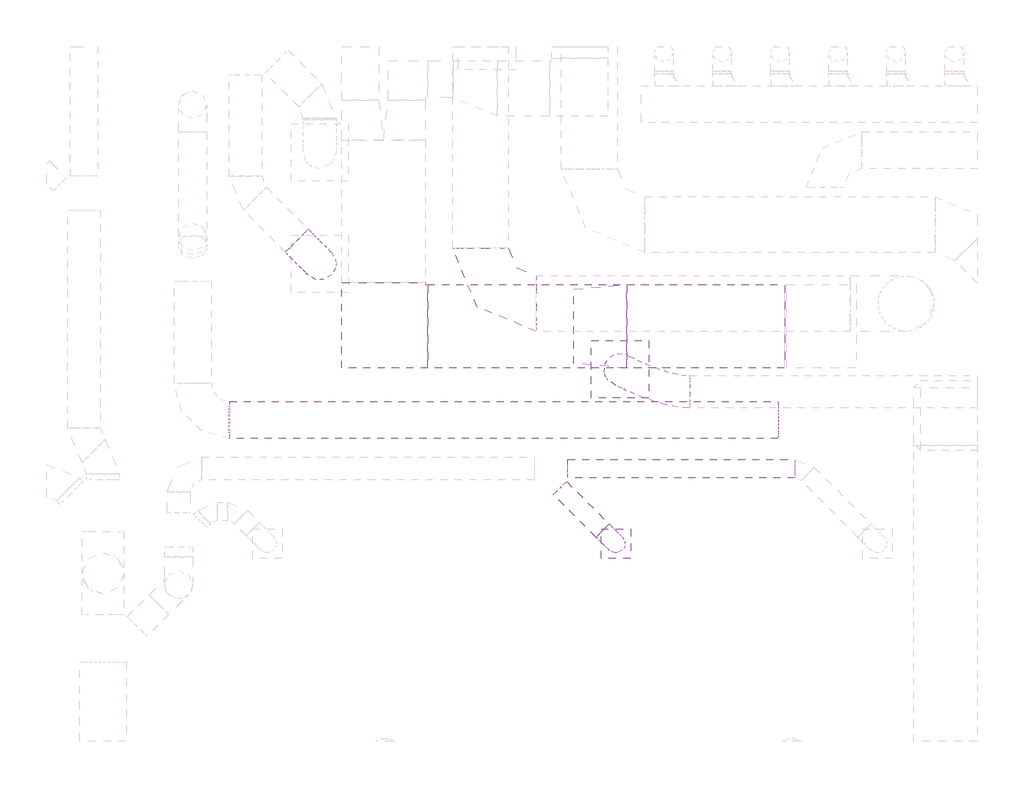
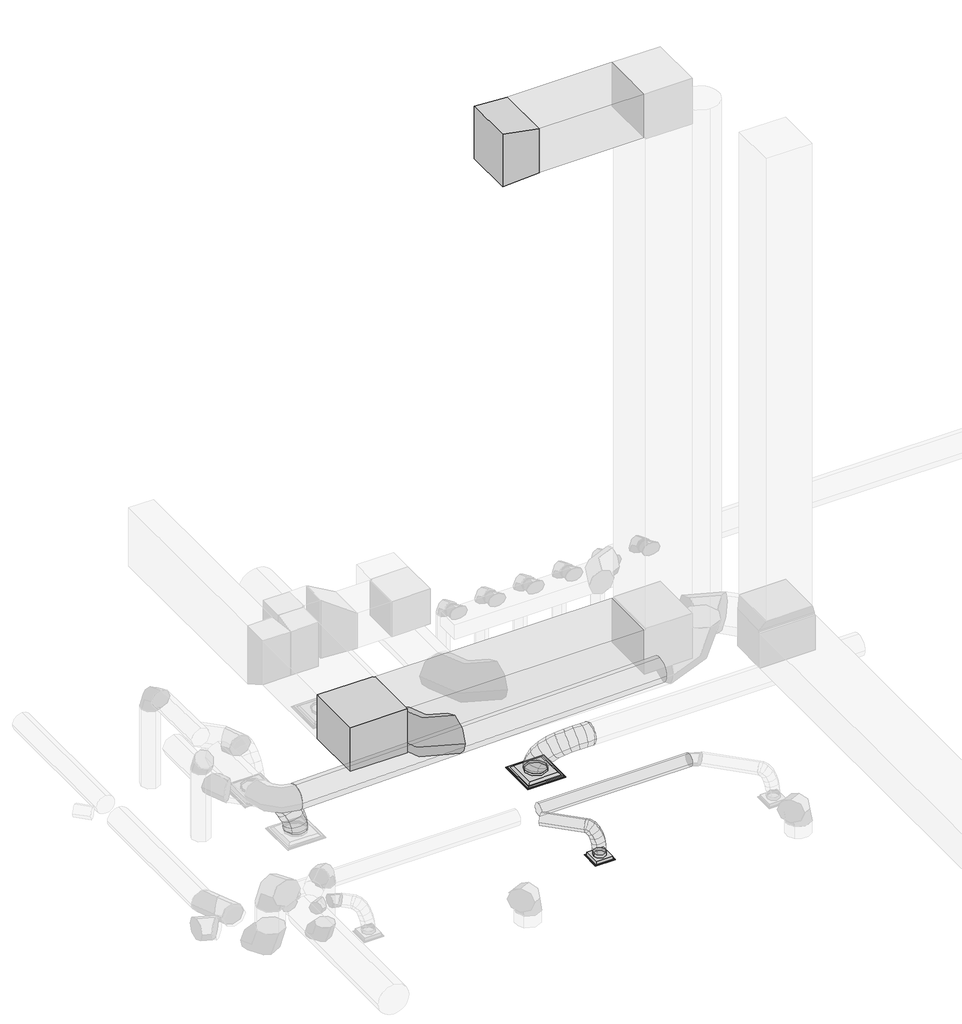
# One storey, part 10 of 33: 8 duct segments, 3 duct fittings, 2 air terminals.
"""IFC4 building model written with IfcOpenShell, lengths in millimetres."""

from ifc_helpers import new_model, si_unit, point, frame, frame_2d, origin, place, context, project, spatial, polyline, circle_curve, ellipse_curve, trimmed, segment, composite_curve, outline, extrude, transform, mapped, element, save
from ifc_brep_helpers import plane_surface, cylinder_surface, advanced_brep
from components import air_terminal_1ddfe03e, air_terminal_0721d01d, rectangular_elbow_mitered_standard_415135ef, rectangular_transition_angle_15_degree_3a848fbe, round_elbow_1_d_29f30982

model = new_model("IFC4")

# Units and contexts
model_context = context("Model", 3, world=origin())
ifc_project = project(units=[si_unit("LENGTHUNIT", "METRE", prefix="MILLI")], contexts=[model_context])

# Site, building, storey
site = spatial("IfcSite", under=ifc_project)
building = spatial("IfcBuilding", under=site)
storey = spatial("IfcBuildingStorey", under=building, Name="T.O. SLAB - 1ST", Elevation=-25.4)

# Air terminals
placement = place(None, origin())
air_terminal_shape = air_terminal_1ddfe03e(model_context)
element("IfcAirTerminal", 1, ObjectType="Titus-Round_Neck_Supply_Diffuser-PCS_Surface_Mount : PCS AA-14_24x24", at=placement, inside=storey, context=model_context, shape_type="MappedRepresentation", body=[
    mapped(air_terminal_shape, transform((14741.6120442, 22299.8443854, 3327.4), x_axis=(1.0, 0.0, 0.0), y_axis=(0.0, -1.0, 0.0), z_axis=(0.0, 0.0, -1.0))),
])
air_terminal_2_shape = air_terminal_0721d01d(model_context)
element("IfcAirTerminal", 2, ObjectType="Titus-Round_Neck_Supply_Diffuser-PCS_Surface_Mount : PCS AA-08_12x12", at=placement, inside=storey, context=model_context, shape_type="MappedRepresentation", body=[
    mapped(air_terminal_2_shape, transform((14694.2696746, 20392.8311449, 3022.6), x_axis=(1.0, 0.0, 0.0), y_axis=(0.0, -1.0, 0.0), z_axis=(0.0, 0.0, -1.0))),
])

# Duct fittings
rectangular_elbow_mitered_standard_shape = rectangular_elbow_mitered_standard_415135ef(model_context)
element("IfcDuctFitting", 3, ObjectType="Rectangular Elbow - Mitered : Standard", at=placement, inside=storey, context=model_context, shape_type="MappedRepresentation", body=[
    mapped(rectangular_elbow_mitered_standard_shape, transform((12154.1531191, 22769.923209, 4777.74), x_axis=(0.0, -1.0, 0.0), y_axis=(1.0, 0.0, 0.0), z_axis=(0.0, 0.0, 1.0))),
])
rectangular_transition_angle_15_degree_shape = rectangular_transition_angle_15_degree_3a848fbe(model_context)
element("IfcDuctFitting", 4, ObjectType="Rectangular Transition - Angle : 15 Degree", at=placement, inside=storey, context=model_context, shape_type="MappedRepresentation", body=[
    mapped(rectangular_transition_angle_15_degree_shape, transform((14812.2264124, 22769.923209, 14116.05), x_axis=(-1.0, 0.0, 0.0), y_axis=(0.0, -1.0, 0.0), z_axis=(0.0, 0.0, 1.0))),
])
round_elbow_1_d_shape = round_elbow_1_d_29f30982(model_context)
element("IfcDuctFitting", 5, ObjectType="Round Elbow : 1 D", at=placement, inside=storey, context=model_context, shape_type="MappedRepresentation", body=[
    mapped(round_elbow_1_d_shape, transform((13213.9872077, 23020.0042983, 3892.55), x_axis=(0.0, -1.0, 0.0), y_axis=(1.0, 0.0, 0.0), z_axis=(0.0, 0.0, 1.0))),
])

# Duct segments
element("IfcDuctSegment", 6, ObjectType="Flex - Round", at=placement, inside=storey, context=model_context, shape_type="AdvancedBrep", body=[
    advanced_brep(
    [(14622.4277018, 20607.215405, 3530.6), (14550.5856528, 20535.373356, 3429.0), (14478.7436038, 20463.531307, 3530.6), (14550.5856528, 20535.373356, 3632.2), (14642.5312021, 20587.1119047, 3530.6), (14553.7156221, 20532.2433867, 3429.0), (14498.9492648, 20443.3256461, 3530.6), (14587.7648447, 20498.1941641, 3632.2), (14765.9438829, 20464.8406433, 3117.85), (14766.279173, 20321.1569365, 3117.85), (14622.5954663, 20320.8216465, 3117.85), (14622.2601762, 20464.5053532, 3117.85), (14670.5691655, 20559.1582995, 3510.7190932), (14556.0095221, 20529.9563885, 3427.3734621), (14527.1336647, 20415.2260451, 3510.6152594), (14641.6933081, 20444.4279562, 3593.9608905), (14707.6731127, 20522.2655796, 3457.7496289), (14576.7925334, 20509.2916917, 3397.7037083), (14564.3146226, 20378.2567527, 3457.5358548), (14695.1952019, 20391.2306406, 3517.5817754), (14734.7260385, 20495.4874003, 3381.8316024), (14595.6946443, 20490.5815486, 3344.6591332), (14591.3938919, 20351.4524976, 3381.5439013), (14730.4252861, 20356.3583493, 3418.7163706), (14752.7635288, 20477.7248025, 3293.1032112), (14610.6267547, 20475.8770044, 3271.2064458), (14609.4297961, 20333.6914616, 3292.8233117), (14751.5665702, 20335.5392596, 3314.7200771), (14762.8225647, 20467.8773136, 3201.7268141), (14619.449568, 20467.2397397, 3191.059909), (14619.4792633, 20323.8533402, 3201.5338375), (14762.85226, 20324.4909141, 3212.2007426), (14765.9438829, 20464.8406433, 3123.1516787), (14622.2601762, 20464.5053532, 3120.3064954), (14622.5954663, 20320.8216465, 3123.0874722), (14766.279173, 20321.1569365, 3125.9326555)],
    [
        (0, 1, circle_curve(frame((14550.5856528, 20535.373356, 3530.6), z_axis=(-0.7071067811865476, 0.7071067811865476, 0.0), x_axis=(0.7071067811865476, 0.7071067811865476, 0.0)), 101.6)),
        (1, 2, circle_curve(frame((14550.5856528, 20535.373356, 3530.6), z_axis=(-0.7071067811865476, 0.7071067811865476, 0.0), x_axis=(0.7071067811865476, 0.7071067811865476, 0.0)), 101.6)),
        (2, 3, circle_curve(frame((14550.5856528, 20535.373356, 3530.6), z_axis=(-0.7071067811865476, 0.7071067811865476, 0.0), x_axis=(0.7071067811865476, 0.7071067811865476, 0.0)), 101.6)),
        (3, 0, circle_curve(frame((14550.5856528, 20535.373356, 3530.6), z_axis=(-0.7071067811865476, 0.7071067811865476, 0.0), x_axis=(0.7071067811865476, 0.7071067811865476, 0.0)), 101.6)),
        (0, 4),
        (4, 5, ellipse_curve(frame((14570.7402334, 20515.2187754, 3530.6), z_axis=(-0.6885405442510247, 0.6875621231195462, 0.23058674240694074), x_axis=(-0.16098577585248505, 0.16511459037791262, -0.9730471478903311)), 104.4137922, 101.6)),
        (5, 1),
        (5, 6, ellipse_curve(frame((14570.7402334, 20515.2187754, 3530.6), z_axis=(-0.6885405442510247, 0.6875621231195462, 0.23058674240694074), x_axis=(-0.16098577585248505, 0.16511459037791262, -0.9730471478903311)), 104.4137922, 101.6)),
        (6, 2),
        (6, 7, ellipse_curve(frame((14570.7402334, 20515.2187754, 3530.6), z_axis=(-0.6885405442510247, 0.6875621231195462, 0.23058674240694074), x_axis=(-0.16098577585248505, 0.16511459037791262, -0.9730471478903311)), 104.4137922, 101.6)),
        (7, 3),
        (7, 4, ellipse_curve(frame((14570.7402334, 20515.2187754, 3530.6), z_axis=(-0.6885405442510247, 0.6875621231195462, 0.23058674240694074), x_axis=(-0.16098577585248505, 0.16511459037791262, -0.9730471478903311)), 104.4137922, 101.6)),
        (8, 9, circle_curve(frame((14694.2696746, 20392.8311449, 3117.85), z_axis=(0.0, 0.0, -1.0), x_axis=(0.7054548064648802, 0.7087549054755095, 0.0)), 101.6)),
        (9, 10, circle_curve(frame((14694.2696746, 20392.8311449, 3117.85), z_axis=(0.0, 0.0, -1.0), x_axis=(0.7054548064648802, 0.7087549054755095, 0.0)), 101.6)),
        (10, 11, circle_curve(frame((14694.2696746, 20392.8311449, 3117.85), z_axis=(0.0, 0.0, -1.0), x_axis=(0.7054548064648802, 0.7087549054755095, 0.0)), 101.6)),
        (11, 8, circle_curve(frame((14694.2696746, 20392.8311449, 3117.85), z_axis=(0.0, 0.0, -1.0), x_axis=(0.7054548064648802, 0.7087549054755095, 0.0)), 101.6)),
        (4, 12),
        (12, 13, ellipse_curve(frame((14598.8514151, 20487.1921723, 3510.6671763), z_axis=(-0.573208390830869, 0.5708059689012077, 0.5878883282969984), x_axis=(-0.41426514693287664, 0.4171379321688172, -0.8089377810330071)), 102.96626, 101.6)),
        (13, 5),
        (13, 14, ellipse_curve(frame((14598.8514151, 20487.1921723, 3510.6671763), z_axis=(-0.573208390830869, 0.5708059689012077, 0.5878883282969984), x_axis=(-0.41426514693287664, 0.4171379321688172, -0.8089377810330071)), 102.96626, 101.6)),
        (14, 6),
        (14, 15, ellipse_curve(frame((14598.8514151, 20487.1921723, 3510.6671763), z_axis=(-0.573208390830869, 0.5708059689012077, 0.5878883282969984), x_axis=(-0.41426514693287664, 0.4171379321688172, -0.8089377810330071)), 102.96626, 101.6)),
        (15, 7),
        (15, 12, ellipse_curve(frame((14598.8514151, 20487.1921723, 3510.6671763), z_axis=(-0.573208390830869, 0.5708059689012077, 0.5878883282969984), x_axis=(-0.41426514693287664, 0.4171379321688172, -0.8089377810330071)), 102.96626, 101.6)),
        (12, 16),
        (16, 17, ellipse_curve(frame((14635.9938677, 20450.2611661, 3457.6427419), z_axis=(-0.41354605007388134, 0.4104720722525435, 0.8127067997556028), x_axis=(-0.5740368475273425, 0.5753079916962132, -0.5826683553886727)), 102.8692851, 101.6)),
        (17, 13),
        (17, 18, ellipse_curve(frame((14635.9938677, 20450.2611661, 3457.6427419), z_axis=(-0.41354605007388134, 0.4104720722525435, 0.8127067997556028), x_axis=(-0.5740368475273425, 0.5753079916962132, -0.5826683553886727)), 102.8692851, 101.6)),
        (18, 14),
        (18, 19, ellipse_curve(frame((14635.9938677, 20450.2611661, 3457.6427419), z_axis=(-0.41354605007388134, 0.4104720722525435, 0.8127067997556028), x_axis=(-0.5740368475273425, 0.5753079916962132, -0.5826683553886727)), 102.8692851, 101.6)),
        (19, 15),
        (19, 16, ellipse_curve(frame((14635.9938677, 20450.2611661, 3457.6427419), z_axis=(-0.41354605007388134, 0.4104720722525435, 0.8127067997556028), x_axis=(-0.5740368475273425, 0.5753079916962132, -0.5826683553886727)), 102.8692851, 101.6)),
        (16, 20),
        (20, 21, ellipse_curve(frame((14663.0599652, 20423.4699489, 3381.6877519), z_axis=(-0.25814245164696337, 0.25502166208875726, 0.9318403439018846), x_axis=(-0.659597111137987, 0.6582256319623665, -0.36286453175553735)), 102.0449505, 101.6)),
        (21, 17),
        (21, 22, ellipse_curve(frame((14663.0599652, 20423.4699489, 3381.6877519), z_axis=(-0.25814245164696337, 0.25502166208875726, 0.9318403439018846), x_axis=(-0.659597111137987, 0.6582256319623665, -0.36286453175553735)), 102.0449505, 101.6)),
        (22, 18),
        (22, 23, ellipse_curve(frame((14663.0599652, 20423.4699489, 3381.6877519), z_axis=(-0.25814245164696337, 0.25502166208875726, 0.9318403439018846), x_axis=(-0.659597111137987, 0.6582256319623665, -0.36286453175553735)), 102.0449505, 101.6)),
        (23, 19),
        (23, 20, ellipse_curve(frame((14663.0599652, 20423.4699489, 3381.6877519), z_axis=(-0.25814245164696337, 0.25502166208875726, 0.9318403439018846), x_axis=(-0.659597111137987, 0.6582256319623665, -0.36286453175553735)), 102.0449505, 101.6)),
        (20, 24),
        (24, 25, ellipse_curve(frame((14681.0966624, 20405.708132, 3292.9632615), z_axis=(-0.1524419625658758, 0.14980311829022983, 0.9768932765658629), x_axis=(-0.6935272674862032, 0.6879980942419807, -0.21372541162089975)), 101.7990065, 101.6)),
        (25, 21),
        (25, 26, ellipse_curve(frame((14681.0966624, 20405.708132, 3292.9632615), z_axis=(-0.1524419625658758, 0.14980311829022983, 0.9768932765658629), x_axis=(-0.6935272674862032, 0.6879980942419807, -0.21372541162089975)), 101.7990065, 101.6)),
        (26, 22),
        (26, 27, ellipse_curve(frame((14681.0966624, 20405.708132, 3292.9632615), z_axis=(-0.1524419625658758, 0.14980311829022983, 0.9768932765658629), x_axis=(-0.6935272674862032, 0.6879980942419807, -0.21372541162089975)), 101.7990065, 101.6)),
        (27, 23),
        (27, 24, ellipse_curve(frame((14681.0966624, 20405.708132, 3292.9632615), z_axis=(-0.1524419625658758, 0.14980311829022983, 0.9768932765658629), x_axis=(-0.6935272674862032, 0.6879980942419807, -0.21372541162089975)), 101.7990065, 101.6)),
        (24, 28),
        (28, 29, ellipse_curve(frame((14691.150914, 20395.8653269, 3201.6303258), z_axis=(-0.07431986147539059, 0.07263598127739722, 0.9945856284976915), x_axis=(-0.7094719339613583, 0.6970295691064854, -0.10391994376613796)), 101.7208169, 101.6)),
        (29, 25),
        (29, 30, ellipse_curve(frame((14691.150914, 20395.8653269, 3201.6303258), z_axis=(-0.07431986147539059, 0.07263598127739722, 0.9945856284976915), x_axis=(-0.7094719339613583, 0.6970295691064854, -0.10391994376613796)), 101.7208169, 101.6)),
        (30, 26),
        (30, 31, ellipse_curve(frame((14691.150914, 20395.8653269, 3201.6303258), z_axis=(-0.07431986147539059, 0.07263598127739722, 0.9945856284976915), x_axis=(-0.7094719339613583, 0.6970295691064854, -0.10391994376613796)), 101.7208169, 101.6)),
        (31, 27),
        (31, 28, ellipse_curve(frame((14691.150914, 20395.8653269, 3201.6303258), z_axis=(-0.07431986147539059, 0.07263598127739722, 0.9945856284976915), x_axis=(-0.7094719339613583, 0.6970295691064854, -0.10391994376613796)), 101.7208169, 101.6)),
        (28, 32),
        (32, 33, ellipse_curve(frame((14694.2696746, 20392.8311449, 3123.1195755), z_axis=(-0.019839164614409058, 0.019301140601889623, 0.9996168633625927), x_axis=(-0.7164843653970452, 0.6970538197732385, -0.02767898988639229)), 101.6389416, 101.6)),
        (33, 29),
        (33, 34, ellipse_curve(frame((14694.2696746, 20392.8311449, 3123.1195755), z_axis=(-0.019839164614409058, 0.019301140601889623, 0.9996168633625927), x_axis=(-0.7164843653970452, 0.6970538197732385, -0.02767898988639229)), 101.6389416, 101.6)),
        (34, 30),
        (34, 35, ellipse_curve(frame((14694.2696746, 20392.8311449, 3123.1195755), z_axis=(-0.019839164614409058, 0.019301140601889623, 0.9996168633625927), x_axis=(-0.7164843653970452, 0.6970538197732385, -0.02767898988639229)), 101.6389416, 101.6)),
        (35, 31),
        (35, 32, ellipse_curve(frame((14694.2696746, 20392.8311449, 3123.1195755), z_axis=(-0.019839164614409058, 0.019301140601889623, 0.9996168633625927), x_axis=(-0.7164843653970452, 0.6970538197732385, -0.02767898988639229)), 101.6389416, 101.6)),
        (32, 8),
        (11, 33),
        (10, 34),
        (9, 35),
    ],
    [
        plane_surface(frame((14550.5856528, 20535.373356, 3429.0), z_axis=(-0.7071067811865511, 0.707106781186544, 0.0), x_axis=(0.707106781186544, 0.7071067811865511, 0.0))),
        cylinder_surface(frame((14550.5856528, 20535.373356, 3530.6), z_axis=(-0.7071067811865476, 0.7071067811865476, 0.0), x_axis=(0.7071067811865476, 0.7071067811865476, 0.0)), 101.6),
        plane_surface(frame((14694.2696746, 20291.2311449, 3117.85), z_axis=(0.0, 0.0, -1.0), x_axis=(-1.0, 0.0, 0.0))),
        cylinder_surface(frame((14570.7402334, 20515.2187754, 3530.6), z_axis=(-0.6328640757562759, 0.6309599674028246, 0.4487455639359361), x_axis=(0.7061540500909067, 0.7080581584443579, 0.0003190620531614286)), 101.6),
        cylinder_surface(frame((14598.8514151, 20487.1921723, 3510.6671763), z_axis=(-0.49834089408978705, 0.4955039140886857, 0.7114297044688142), x_axis=(0.7056702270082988, 0.7085399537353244, 0.000815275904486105)), 101.6),
        cylinder_surface(frame((14635.9938677, 20450.2611661, 3457.6427419), z_axis=(-0.3185458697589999, 0.3153107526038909, 0.8939282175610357), x_axis=(0.7053983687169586, 0.7088097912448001, 0.001349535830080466)), 101.6),
        cylinder_surface(frame((14663.0599652, 20423.4699489, 3381.6877519), z_axis=(-0.19548785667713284, 0.19250861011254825, 0.9616261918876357), x_axis=(0.7053602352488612, 0.708847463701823, 0.0014871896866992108)), 101.6),
        cylinder_surface(frame((14681.0966624, 20405.708132, 3292.9632615), z_axis=(-0.10880005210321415, 0.10651192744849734, 0.9883409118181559), x_axis=(0.7053949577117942, 0.7088133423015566, 0.0012646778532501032)), 101.6),
        cylinder_surface(frame((14691.150914, 20395.8653269, 3201.6303258), z_axis=(-0.0396631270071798, 0.038587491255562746, 0.998467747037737), x_axis=(0.7054422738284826, 0.7087670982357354, 0.0006314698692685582)), 101.6),
        cylinder_surface(frame((14694.2696746, 20392.8311449, 3123.1195755), z_axis=(0.0, 0.0, 1.0), x_axis=(0.7054548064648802, 0.7087549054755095, 0.0)), 101.6),
    ],
    [
        (0, [[1, 2, 3, 4]]),
        (1, [[-1, 5, 6, 7]]),
        (1, [[-2, -7, 8, 9]]),
        (1, [[-3, -9, 10, 11]]),
        (1, [[-4, -11, 12, -5]]),
        (2, [[13, 14, 15, 16]]),
        (3, [[-6, 17, 18, 19]]),
        (3, [[-8, -19, 20, 21]]),
        (3, [[-10, -21, 22, 23]]),
        (3, [[-12, -23, 24, -17]]),
        (4, [[-18, 25, 26, 27]]),
        (4, [[-20, -27, 28, 29]]),
        (4, [[-22, -29, 30, 31]]),
        (4, [[-24, -31, 32, -25]]),
        (5, [[-26, 33, 34, 35]]),
        (5, [[-28, -35, 36, 37]]),
        (5, [[-30, -37, 38, 39]]),
        (5, [[-32, -39, 40, -33]]),
        (6, [[-34, 41, 42, 43]]),
        (6, [[-36, -43, 44, 45]]),
        (6, [[-38, -45, 46, 47]]),
        (6, [[-40, -47, 48, -41]]),
        (7, [[-42, 49, 50, 51]]),
        (7, [[-44, -51, 52, 53]]),
        (7, [[-46, -53, 54, 55]]),
        (7, [[-48, -55, 56, -49]]),
        (8, [[-50, 57, 58, 59]]),
        (8, [[-52, -59, 60, 61]]),
        (8, [[-54, -61, 62, 63]]),
        (8, [[-56, -63, 64, -57]]),
        (9, [[-58, 65, -16, 66]]),
        (9, [[-60, -66, -15, 67]]),
        (9, [[-62, -67, -14, 68]]),
        (9, [[-64, -68, -13, -65]]),
    ],
),
])
element("IfcDuctSegment", 7, ObjectType="Flex - Round", at=placement, inside=storey, context=model_context, shape_type="AdvancedBrep", body=[
    advanced_brep(
    [(15504.8927961, 21876.124362, 3886.1927551), (15504.8927961, 22053.924362, 3708.3927551), (15504.8927961, 22231.724362, 3886.1927551), (15504.8927961, 22053.924362, 4063.9927551), (15483.039313, 21876.124362, 3886.1927551), (15496.5853521, 22053.924362, 3708.3927551), (15498.9634344, 22231.724362, 3886.1927551), (15485.4173953, 22053.924362, 4063.9927551), (14680.2950877, 22132.9519924, 3416.3), (14574.7196512, 22361.1613419, 3416.3), (14802.9290008, 22466.7367783, 3416.3), (14908.5044372, 22238.5274288, 3416.3), (15371.8933823, 21886.1086823, 3879.190519), (15416.2037955, 22061.145096, 3703.3286863), (15422.3457538, 22238.6069843, 3881.3658119), (15378.0353406, 22063.5705705, 4057.2276446), (15242.4900743, 21911.8774177, 3859.0250996), (15318.4194894, 22080.6173796, 3688.0905786), (15324.7503283, 22258.0416551, 3866.1571382), (15248.8209132, 22089.3016932, 4037.0916592), (15117.207125, 21947.740043, 3826.8312222), (15219.850018, 22108.8331907, 3662.7612461), (15221.4112975, 22287.6227671, 3839.6021752), (15118.7684045, 22126.5296195, 4003.6721513), (14999.9715702, 21989.0077216, 3783.2416179), (15126.315151, 22141.7580729, 3627.9838456), (15118.2306564, 22323.9430245, 3801.2383587), (14991.8870756, 22171.1926733, 3956.4961309), (14894.6776318, 22031.4808788, 3728.6190902), (15044.2138391, 22174.875857, 3585.3927786), (15021.1432139, 22363.1058697, 3750.8730518), (14871.6070066, 22219.7108915, 3894.0993633), (14805.7993889, 22070.9948418, 3663.5066167), (14979.7105876, 22203.5530564, 3538.1374987), (14935.5039217, 22401.1798427, 3688.1334436), (14761.592723, 22268.6216281, 3813.5025616), (14738.0188174, 22103.4145384, 3588.9286494), (14937.4684844, 22223.7576097, 3491.659133), (14866.4598348, 22434.2038834, 3612.1652488), (14667.0101678, 22313.8608122, 3709.4347653), (14694.9811745, 22125.1993998, 3505.5210497), (14913.5148415, 22235.8825021, 3445.2366125), (14820.1947267, 22457.6224282, 3522.5027728), (14601.6610597, 22346.9393259, 3582.7872101), (14680.2950877, 22132.9519924, 3445.412563), (14908.5044372, 22238.5274288, 3424.7295964), (14802.9290008, 22466.7367783, 3451.8361162), (14574.7196512, 22361.1613419, 3472.5190828)],
    [
        (0, 1, circle_curve(frame((15504.8927961, 22053.924362, 3886.1927551), z_axis=(1.0, 0.0, 0.0), x_axis=(0.0, -1.0, 0.0)), 177.8)),
        (1, 2, circle_curve(frame((15504.8927961, 22053.924362, 3886.1927551), z_axis=(1.0, 0.0, 0.0), x_axis=(0.0, -1.0, 0.0)), 177.8)),
        (2, 3, circle_curve(frame((15504.8927961, 22053.924362, 3886.1927551), z_axis=(1.0, 0.0, 0.0), x_axis=(0.0, -1.0, 0.0)), 177.8)),
        (3, 0, circle_curve(frame((15504.8927961, 22053.924362, 3886.1927551), z_axis=(1.0, 0.0, 0.0), x_axis=(0.0, -1.0, 0.0)), 177.8)),
        (0, 4),
        (4, 5, ellipse_curve(frame((15491.0013737, 22053.924362, 3886.1927551), z_axis=(0.998507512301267, -0.04471415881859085, 0.03135907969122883), x_axis=(0.054614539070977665, 0.8175006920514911, -0.5733322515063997)), 178.065761, 177.8)),
        (5, 1),
        (5, 6, ellipse_curve(frame((15491.0013737, 22053.924362, 3886.1927551), z_axis=(0.998507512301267, -0.04471415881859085, 0.03135907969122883), x_axis=(0.054614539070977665, 0.8175006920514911, -0.5733322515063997)), 178.065761, 177.8)),
        (6, 2),
        (6, 7, ellipse_curve(frame((15491.0013737, 22053.924362, 3886.1927551), z_axis=(0.998507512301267, -0.04471415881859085, 0.03135907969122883), x_axis=(0.054614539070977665, 0.8175006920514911, -0.5733322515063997)), 178.065761, 177.8)),
        (7, 3),
        (7, 4, ellipse_curve(frame((15491.0013737, 22053.924362, 3886.1927551), z_axis=(0.998507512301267, -0.04471415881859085, 0.03135907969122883), x_axis=(0.054614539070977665, 0.8175006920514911, -0.5733322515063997)), 178.065761, 177.8)),
        (8, 9, circle_curve(frame((14741.6120442, 22299.8443854, 3416.3), z_axis=(0.0, 0.0, -1.0), x_axis=(-0.34486477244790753, -0.9386523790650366, 0.0)), 177.8)),
        (9, 10, circle_curve(frame((14741.6120442, 22299.8443854, 3416.3), z_axis=(0.0, 0.0, -1.0), x_axis=(-0.34486477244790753, -0.9386523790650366, 0.0)), 177.8)),
        (10, 11, circle_curve(frame((14741.6120442, 22299.8443854, 3416.3), z_axis=(0.0, 0.0, -1.0), x_axis=(-0.34486477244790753, -0.9386523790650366, 0.0)), 177.8)),
        (11, 8, circle_curve(frame((14741.6120442, 22299.8443854, 3416.3), z_axis=(0.0, 0.0, -1.0), x_axis=(-0.34486477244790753, -0.9386523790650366, 0.0)), 177.8)),
        (4, 12),
        (12, 13, ellipse_curve(frame((15397.1195681, 22062.3578333, 3880.2781655), z_axis=(0.9841243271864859, -0.14151670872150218, 0.10710896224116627), x_axis=(0.17719099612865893, 0.7489738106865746, -0.6384681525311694)), 178.2281215, 177.8)),
        (13, 5),
        (13, 14, ellipse_curve(frame((15397.1195681, 22062.3578333, 3880.2781655), z_axis=(0.9841243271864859, -0.14151670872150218, 0.10710896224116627), x_axis=(0.17719099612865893, 0.7489738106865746, -0.6384681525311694)), 178.2281215, 177.8)),
        (14, 6),
        (14, 15, ellipse_curve(frame((15397.1195681, 22062.3578333, 3880.2781655), z_axis=(0.9841243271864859, -0.14151670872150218, 0.10710896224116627), x_axis=(0.17719099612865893, 0.7489738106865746, -0.6384681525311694)), 178.2281215, 177.8)),
        (15, 7),
        (15, 12, ellipse_curve(frame((15397.1195681, 22062.3578333, 3880.2781655), z_axis=(0.9841243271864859, -0.14151670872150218, 0.10710896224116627), x_axis=(0.17719099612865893, 0.7489738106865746, -0.6384681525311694)), 178.2281215, 177.8)),
        (12, 16),
        (16, 17, ellipse_curve(frame((15283.6202013, 22084.9595364, 3862.5911189), z_axis=(0.9531571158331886, -0.23053658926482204, 0.19581724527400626), x_axis=(0.2984617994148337, 0.6117085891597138, -0.7326207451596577)), 178.1271091, 177.8)),
        (17, 13),
        (17, 18, ellipse_curve(frame((15283.6202013, 22084.9595364, 3862.5911189), z_axis=(0.9531571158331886, -0.23053658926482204, 0.19581724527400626), x_axis=(0.2984617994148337, 0.6117085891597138, -0.7326207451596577)), 178.1271091, 177.8)),
        (18, 14),
        (18, 19, ellipse_curve(frame((15283.6202013, 22084.9595364, 3862.5911189), z_axis=(0.9531571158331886, -0.23053658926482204, 0.19581724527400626), x_axis=(0.2984617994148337, 0.6117085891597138, -0.7326207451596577)), 178.1271091, 177.8)),
        (19, 15),
        (19, 16, ellipse_curve(frame((15283.6202013, 22084.9595364, 3862.5911189), z_axis=(0.9531571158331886, -0.23053658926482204, 0.19581724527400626), x_axis=(0.2984617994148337, 0.6117085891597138, -0.7326207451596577)), 178.1271091, 177.8)),
        (16, 20),
        (20, 21, ellipse_curve(frame((15169.3092112, 22117.6814051, 3833.2166987), z_axis=(0.9131240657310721, -0.2906935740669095, 0.28583506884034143), x_axis=(0.38966239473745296, 0.41617446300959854, -0.8215607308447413)), 178.0740115, 177.8)),
        (21, 17),
        (21, 22, ellipse_curve(frame((15169.3092112, 22117.6814051, 3833.2166987), z_axis=(0.9131240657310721, -0.2906935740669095, 0.28583506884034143), x_axis=(0.38966239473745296, 0.41617446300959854, -0.8215607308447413)), 178.0740115, 177.8)),
        (22, 18),
        (22, 23, ellipse_curve(frame((15169.3092112, 22117.6814051, 3833.2166987), z_axis=(0.9131240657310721, -0.2906935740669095, 0.28583506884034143), x_axis=(0.38966239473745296, 0.41617446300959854, -0.8215607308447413)), 178.0740115, 177.8)),
        (23, 19),
        (23, 20, ellipse_curve(frame((15169.3092112, 22117.6814051, 3833.2166987), z_axis=(0.9131240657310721, -0.2906935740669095, 0.28583506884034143), x_axis=(0.38966239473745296, 0.41617446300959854, -0.8215607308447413)), 178.0740115, 177.8)),
        (20, 24),
        (24, 25, ellipse_curve(frame((15059.1011133, 22156.4753731, 3792.2399883), z_axis=(0.8644287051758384, -0.325787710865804, 0.38291693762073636), x_axis=(0.4590020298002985, 0.20064171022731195, -0.8654825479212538)), 178.1130371, 177.8)),
        (25, 21),
        (25, 26, ellipse_curve(frame((15059.1011133, 22156.4753731, 3792.2399883), z_axis=(0.8644287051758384, -0.325787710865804, 0.38291693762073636), x_axis=(0.4590020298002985, 0.20064171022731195, -0.8654825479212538)), 178.1130371, 177.8)),
        (26, 22),
        (26, 27, ellipse_curve(frame((15059.1011133, 22156.4753731, 3792.2399883), z_axis=(0.8644287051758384, -0.325787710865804, 0.38291693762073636), x_axis=(0.4590020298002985, 0.20064171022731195, -0.8654825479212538)), 178.1130371, 177.8)),
        (27, 23),
        (27, 24, ellipse_curve(frame((15059.1011133, 22156.4753731, 3792.2399883), z_axis=(0.8644287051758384, -0.325787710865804, 0.38291693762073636), x_axis=(0.4590020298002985, 0.20064171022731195, -0.8654825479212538)), 178.1130371, 177.8)),
        (24, 28),
        (28, 29, ellipse_curve(frame((14957.9104228, 22197.2933742, 3739.746071), z_axis=(0.7996105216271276, -0.33823088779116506, 0.4962085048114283), x_axis=(0.5282977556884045, 0.0033270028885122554, -0.8490526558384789)), 178.2663816, 177.8)),
        (29, 25),
        (29, 30, ellipse_curve(frame((14957.9104228, 22197.2933742, 3739.746071), z_axis=(0.7996105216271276, -0.33823088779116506, 0.4962085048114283), x_axis=(0.5282977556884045, 0.0033270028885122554, -0.8490526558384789)), 178.2663816, 177.8)),
        (30, 26),
        (30, 31, ellipse_curve(frame((14957.9104228, 22197.2933742, 3739.746071), z_axis=(0.7996105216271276, -0.33823088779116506, 0.4962085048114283), x_axis=(0.5282977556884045, 0.0033270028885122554, -0.8490526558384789)), 178.2663816, 177.8)),
        (31, 27),
        (31, 28, ellipse_curve(frame((14957.9104228, 22197.2933742, 3739.746071), z_axis=(0.7996105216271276, -0.33823088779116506, 0.4962085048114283), x_axis=(0.5282977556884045, 0.0033270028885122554, -0.8490526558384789)), 178.2663816, 177.8)),
        (28, 32),
        (32, 33, ellipse_curve(frame((14870.6516553, 22236.0873423, 3675.8200301), z_axis=(0.7030655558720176, -0.3234173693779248, 0.6333245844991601), x_axis=(0.6180092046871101, -0.1627027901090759, -0.769150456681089)), 178.6307371, 177.8)),
        (33, 29),
        (33, 34, ellipse_curve(frame((14870.6516553, 22236.0873423, 3675.8200301), z_axis=(0.7030655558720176, -0.3234173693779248, 0.6333245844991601), x_axis=(0.6180092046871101, -0.1627027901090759, -0.769150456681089)), 178.6307371, 177.8)),
        (34, 30),
        (34, 35, ellipse_curve(frame((14870.6516553, 22236.0873423, 3675.8200301), z_axis=(0.7030655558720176, -0.3234173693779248, 0.6333245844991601), x_axis=(0.6180092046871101, -0.1627027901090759, -0.769150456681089)), 178.6307371, 177.8)),
        (35, 31),
        (35, 32, ellipse_curve(frame((14870.6516553, 22236.0873423, 3675.8200301), z_axis=(0.7030655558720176, -0.3234173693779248, 0.6333245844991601), x_axis=(0.6180092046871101, -0.1627027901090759, -0.769150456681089)), 178.6307371, 177.8)),
        (32, 36),
        (36, 37, ellipse_curve(frame((14802.2393261, 22268.8092109, 3600.5469491), z_axis=(0.5482780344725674, -0.26852465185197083, 0.7920137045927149), x_axis=(0.7323252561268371, -0.30316861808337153, -0.6097446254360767)), 179.3737574, 177.8)),
        (37, 33),
        (37, 38, ellipse_curve(frame((14802.2393261, 22268.8092109, 3600.5469491), z_axis=(0.5482780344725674, -0.26852465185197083, 0.7920137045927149), x_axis=(0.7323252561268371, -0.30316861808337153, -0.6097446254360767)), 179.3737574, 177.8)),
        (38, 34),
        (38, 39, ellipse_curve(frame((14802.2393261, 22268.8092109, 3600.5469491), z_axis=(0.5482780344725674, -0.26852465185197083, 0.7920137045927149), x_axis=(0.7323252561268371, -0.30316861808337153, -0.6097446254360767)), 179.3737574, 177.8)),
        (39, 35),
        (39, 36, ellipse_curve(frame((14802.2393261, 22268.8092109, 3600.5469491), z_axis=(0.5482780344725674, -0.26852465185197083, 0.7920137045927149), x_axis=(0.7323252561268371, -0.30316861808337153, -0.6097446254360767)), 179.3737574, 177.8)),
        (36, 40),
        (40, 41, ellipse_curve(frame((14757.5879506, 22291.410914, 3514.0119113), z_axis=(0.3438761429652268, -0.17664049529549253, 0.9222512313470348), x_axis=(0.830829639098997, -0.4004390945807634, -0.3864849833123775)), 179.2533742, 177.8)),
        (41, 37),
        (41, 42, ellipse_curve(frame((14757.5879506, 22291.410914, 3514.0119113), z_axis=(0.3438761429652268, -0.17664049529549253, 0.9222512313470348), x_axis=(0.830829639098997, -0.4004390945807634, -0.3864849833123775)), 179.2533742, 177.8)),
        (42, 38),
        (42, 43, ellipse_curve(frame((14757.5879506, 22291.410914, 3514.0119113), z_axis=(0.3438761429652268, -0.17664049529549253, 0.9222512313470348), x_axis=(0.830829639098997, -0.4004390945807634, -0.3864849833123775)), 179.2533742, 177.8)),
        (43, 39),
        (43, 40, ellipse_curve(frame((14757.5879506, 22291.410914, 3514.0119113), z_axis=(0.3438761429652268, -0.17664049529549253, 0.9222512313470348), x_axis=(0.830829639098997, -0.4004390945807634, -0.3864849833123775)), 179.2533742, 177.8)),
        (40, 44),
        (44, 45, ellipse_curve(frame((14741.6120442, 22299.8443854, 3448.6243396), z_axis=(0.11882942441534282, -0.06272849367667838, 0.9909312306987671), x_axis=(0.8763250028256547, -0.46260046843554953, -0.13436999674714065)), 179.4271837, 177.8)),
        (45, 41),
        (45, 46, ellipse_curve(frame((14741.6120442, 22299.8443854, 3448.6243396), z_axis=(0.11882942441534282, -0.06272849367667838, 0.9909312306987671), x_axis=(0.8763250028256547, -0.46260046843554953, -0.13436999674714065)), 179.4271837, 177.8)),
        (46, 42),
        (46, 47, ellipse_curve(frame((14741.6120442, 22299.8443854, 3448.6243396), z_axis=(0.11882942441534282, -0.06272849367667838, 0.9909312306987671), x_axis=(0.8763250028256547, -0.46260046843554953, -0.13436999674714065)), 179.4271837, 177.8)),
        (47, 43),
        (47, 44, ellipse_curve(frame((14741.6120442, 22299.8443854, 3448.6243396), z_axis=(0.11882942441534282, -0.06272849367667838, 0.9909312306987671), x_axis=(0.8763250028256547, -0.46260046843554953, -0.13436999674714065)), 179.4271837, 177.8)),
        (44, 8),
        (11, 45),
        (10, 46),
        (9, 47),
    ],
    [
        plane_surface(frame((15504.8927961, 22053.924362, 3708.3927551), z_axis=(1.0, 0.0, 0.0), x_axis=(0.0, -1.0, 0.0))),
        cylinder_surface(frame((15504.8927961, 22053.924362, 3886.1927551), z_axis=(1.0, 0.0, 0.0), x_axis=(0.0, -1.0, 0.0)), 177.8),
        plane_surface(frame((14741.6120442, 22122.0443854, 3416.3), z_axis=(0.0, 0.0, -1.0), x_axis=(-1.0, 0.0, 0.0))),
        cylinder_surface(frame((15491.0013737, 22053.924362, 3886.1927551), z_axis=(0.99403450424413, -0.08929484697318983, 0.06262455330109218), x_axis=(-0.08929484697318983, -0.9960012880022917, -0.0028043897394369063)), 177.8),
        cylinder_surface(frame((15397.1195681, 22062.3578333, 3880.2781655), z_axis=(0.9694862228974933, -0.19305869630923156, 0.1510787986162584), x_axis=(-0.19316566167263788, -0.9810647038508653, -0.0141093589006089)), 177.8),
        cylinder_surface(frame((15283.6202013, 22084.9595364, 3862.5911189), z_axis=(0.9333272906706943, -0.26716777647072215, 0.2398365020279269), x_axis=(-0.26806709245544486, -0.9629485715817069, -0.029497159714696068)), 177.8),
        cylinder_surface(frame((15169.3092112, 22117.6814051, 3833.2166987), z_axis=(0.8901107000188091, -0.31332476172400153, 0.3309539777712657), x_axis=(-0.3168518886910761, -0.9474179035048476, -0.044768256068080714)), 177.8),
        cylinder_surface(frame((15059.1011133, 22156.4753731, 3792.2399883), z_axis=(0.8357082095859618, -0.3371055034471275, 0.43353392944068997), x_axis=(-0.3473121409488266, -0.9359379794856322, -0.05826126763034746)), 177.8),
        cylinder_surface(frame((14957.9104228, 22197.2933742, 3739.746071), z_axis=(0.7593289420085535, -0.33758650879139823, 0.5562867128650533), x_axis=(-0.36320672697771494, -0.9292146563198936, -0.06812485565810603)), 177.8),
        cylinder_surface(frame((14870.6516553, 22236.0873423, 3675.8200301), z_axis=(0.6402628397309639, -0.30624007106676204, 0.7044717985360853), x_axis=(-0.3660483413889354, -0.9279074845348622, -0.0706845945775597)), 177.8),
        cylinder_surface(frame((14802.2393261, 22268.8092109, 3600.5469491), z_axis=(0.4466724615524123, -0.22609736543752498, 0.8656579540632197), x_axis=(-0.3578094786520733, -0.9319425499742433, -0.05878316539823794)), 177.8),
        cylinder_surface(frame((14757.5879506, 22291.410914, 3514.0119113), z_axis=(0.23550357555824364, -0.12431924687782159, 0.9638894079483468), x_axis=(-0.3491189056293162, -0.9364066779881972, -0.035475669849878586)), 177.8),
        cylinder_surface(frame((14741.6120442, 22299.8443854, 3448.6243396), z_axis=(0.0, 0.0, 1.0), x_axis=(-0.34486477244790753, -0.9386523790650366, 0.0)), 177.8),
    ],
    [
        (0, [[1, 2, 3, 4]]),
        (1, [[-1, 5, 6, 7]]),
        (1, [[-2, -7, 8, 9]]),
        (1, [[-3, -9, 10, 11]]),
        (1, [[-4, -11, 12, -5]]),
        (2, [[13, 14, 15, 16]]),
        (3, [[-6, 17, 18, 19]]),
        (3, [[-8, -19, 20, 21]]),
        (3, [[-10, -21, 22, 23]]),
        (3, [[-12, -23, 24, -17]]),
        (4, [[-18, 25, 26, 27]]),
        (4, [[-20, -27, 28, 29]]),
        (4, [[-22, -29, 30, 31]]),
        (4, [[-24, -31, 32, -25]]),
        (5, [[-26, 33, 34, 35]]),
        (5, [[-28, -35, 36, 37]]),
        (5, [[-30, -37, 38, 39]]),
        (5, [[-32, -39, 40, -33]]),
        (6, [[-34, 41, 42, 43]]),
        (6, [[-36, -43, 44, 45]]),
        (6, [[-38, -45, 46, 47]]),
        (6, [[-40, -47, 48, -41]]),
        (7, [[-42, 49, 50, 51]]),
        (7, [[-44, -51, 52, 53]]),
        (7, [[-46, -53, 54, 55]]),
        (7, [[-48, -55, 56, -49]]),
        (8, [[-50, 57, 58, 59]]),
        (8, [[-52, -59, 60, 61]]),
        (8, [[-54, -61, 62, 63]]),
        (8, [[-56, -63, 64, -57]]),
        (9, [[-58, 65, 66, 67]]),
        (9, [[-60, -67, 68, 69]]),
        (9, [[-62, -69, 70, 71]]),
        (9, [[-64, -71, 72, -65]]),
        (10, [[-66, 73, 74, 75]]),
        (10, [[-68, -75, 76, 77]]),
        (10, [[-70, -77, 78, 79]]),
        (10, [[-72, -79, 80, -73]]),
        (11, [[-74, 81, 82, 83]]),
        (11, [[-76, -83, 84, 85]]),
        (11, [[-78, -85, 86, 87]]),
        (11, [[-80, -87, 88, -81]]),
        (12, [[-82, 89, -16, 90]]),
        (12, [[-84, -90, -15, 91]]),
        (12, [[-86, -91, -14, 92]]),
        (12, [[-88, -92, -13, -89]]),
    ],
),
])
element("IfcDuctSegment", 8, ObjectType="Flex - Round", at=placement, inside=storey, context=model_context, shape_type="AdvancedBrep", body=[
    advanced_brep(
    [(11329.6764188, 23833.9691515, 3276.6), (11203.9528331, 23708.2455658, 3098.8), (11078.2292474, 23582.5219801, 3276.6), (11203.9528331, 23708.2455658, 3454.4), (11357.1431295, 23806.5024407, 3276.6), (11208.3370733, 23703.8613256, 3098.8), (11105.6965328, 23555.0546947, 3276.6), (11254.502589, 23657.6958099, 3454.4), (11581.1226068, 23582.5279934, 2806.7), (11581.1245646, 23331.080822, 2806.7), (11329.6773932, 23331.0788643, 2806.7), (11329.6754354, 23582.5260356, 2806.7), (11396.5290146, 23767.1169282, 3255.4336287), (11212.6951161, 23699.503324, 3096.4579439), (11145.0832305, 23515.6683695, 3255.4331919), (11328.9171291, 23583.2819737, 3414.4088766), (11456.5967905, 23707.0500838, 3198.425132), (11246.8427238, 23665.3562458, 3064.0494894), (11205.1514762, 23455.6010554, 3198.4242494), (11414.9055428, 23497.2948935, 3332.799892), (11507.4847357, 23656.1633495, 3115.3110484), (11278.2917847, 23633.9079332, 3012.6844782), (11256.039656, 23404.7140865, 3115.3097826), (11485.232607, 23426.9695028, 3217.9363528), (11546.7981746, 23616.8511215, 3015.8278072), (11305.6715487, 23606.5290126, 2943.3995787), (11295.3531069, 23365.4018465, 3015.826511), (11536.4797328, 23375.7239554, 3088.2547395), (11572.1423718, 23591.5078559, 2909.7119793), (11323.8641625, 23588.3370674, 2867.2273384), (11320.6972255, 23340.0586594, 2909.7110123), (11568.9754347, 23343.2294478, 2952.1956533), (11581.1226068, 23582.5279934, 2828.4553526), (11329.6754354, 23582.5260356, 2814.6447021), (11329.6773932, 23331.0788643, 2828.4549946), (11581.1245646, 23331.080822, 2842.2656452)],
    [
        (0, 1, circle_curve(frame((11203.9528331, 23708.2455658, 3276.6), z_axis=(-0.7071067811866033, 0.7071067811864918, 0.0), x_axis=(0.7071067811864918, 0.7071067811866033, 0.0)), 177.8)),
        (1, 2, circle_curve(frame((11203.9528331, 23708.2455658, 3276.6), z_axis=(-0.7071067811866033, 0.7071067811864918, 0.0), x_axis=(0.7071067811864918, 0.7071067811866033, 0.0)), 177.8)),
        (2, 3, circle_curve(frame((11203.9528331, 23708.2455658, 3276.6), z_axis=(-0.7071067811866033, 0.7071067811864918, 0.0), x_axis=(0.7071067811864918, 0.7071067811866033, 0.0)), 177.8)),
        (3, 0, circle_curve(frame((11203.9528331, 23708.2455658, 3276.6), z_axis=(-0.7071067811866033, 0.7071067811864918, 0.0), x_axis=(0.7071067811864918, 0.7071067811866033, 0.0)), 177.8)),
        (0, 4),
        (4, 5, ellipse_curve(frame((11231.4198311, 23680.7785677, 3276.6), z_axis=(-0.6954836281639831, 0.6954804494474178, 0.18058091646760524), x_axis=(-0.12768133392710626, 0.1276986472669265, -0.9835601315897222)), 180.7718657, 177.8)),
        (5, 1),
        (5, 6, ellipse_curve(frame((11231.4198311, 23680.7785677, 3276.6), z_axis=(-0.6954836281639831, 0.6954804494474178, 0.18058091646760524), x_axis=(-0.12768133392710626, 0.1276986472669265, -0.9835601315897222)), 180.7718657, 177.8)),
        (6, 2),
        (6, 7, ellipse_curve(frame((11231.4198311, 23680.7785677, 3276.6), z_axis=(-0.6954836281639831, 0.6954804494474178, 0.18058091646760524), x_axis=(-0.12768133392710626, 0.1276986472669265, -0.9835601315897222)), 180.7718657, 177.8)),
        (7, 3),
        (7, 4, ellipse_curve(frame((11231.4198311, 23680.7785677, 3276.6), z_axis=(-0.6954836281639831, 0.6954804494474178, 0.18058091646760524), x_axis=(-0.12768133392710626, 0.1276986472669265, -0.9835601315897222)), 180.7718657, 177.8)),
        (8, 9, circle_curve(frame((11455.4, 23456.8034288, 2806.7), z_axis=(0.0, 0.0, -1.0), x_axis=(0.7071012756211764, 0.7071122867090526, 0.0)), 177.8)),
        (9, 10, circle_curve(frame((11455.4, 23456.8034288, 2806.7), z_axis=(0.0, 0.0, -1.0), x_axis=(0.7071012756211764, 0.7071122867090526, 0.0)), 177.8)),
        (10, 11, circle_curve(frame((11455.4, 23456.8034288, 2806.7), z_axis=(0.0, 0.0, -1.0), x_axis=(0.7071012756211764, 0.7071122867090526, 0.0)), 177.8)),
        (11, 8, circle_curve(frame((11455.4, 23456.8034288, 2806.7), z_axis=(0.0, 0.0, -1.0), x_axis=(0.7071012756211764, 0.7071122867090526, 0.0)), 177.8)),
        (4, 12),
        (12, 13, ellipse_curve(frame((11270.8061226, 23641.3926489, 3255.4334103), z_axis=(-0.6281452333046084, 0.6281375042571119, 0.45921328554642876), x_axis=(-0.324706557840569, 0.324719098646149, -0.8883260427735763)), 178.9607179, 177.8)),
        (13, 5),
        (13, 14, ellipse_curve(frame((11270.8061226, 23641.3926489, 3255.4334103), z_axis=(-0.6281452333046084, 0.6281375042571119, 0.45921328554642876), x_axis=(-0.324706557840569, 0.324719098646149, -0.8883260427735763)), 178.9607179, 177.8)),
        (14, 6),
        (14, 15, ellipse_curve(frame((11270.8061226, 23641.3926489, 3255.4334103), z_axis=(-0.6281452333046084, 0.6281375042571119, 0.45921328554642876), x_axis=(-0.324706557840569, 0.324719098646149, -0.8883260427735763)), 178.9607179, 177.8)),
        (15, 7),
        (15, 12, ellipse_curve(frame((11270.8061226, 23641.3926489, 3255.4334103), z_axis=(-0.6281452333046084, 0.6281375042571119, 0.45921328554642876), x_axis=(-0.324706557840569, 0.324719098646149, -0.8883260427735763)), 178.9607179, 177.8)),
        (12, 16),
        (16, 17, ellipse_curve(frame((11330.8741333, 23581.3255696, 3198.4246907), z_axis=(-0.5296892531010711, 0.5296791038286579, 0.6624721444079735), x_axis=(-0.46843494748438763, 0.4684421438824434, -0.7490865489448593)), 179.3854148, 177.8)),
        (17, 13),
        (17, 18, ellipse_curve(frame((11330.8741333, 23581.3255696, 3198.4246907), z_axis=(-0.5296892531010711, 0.5296791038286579, 0.6624721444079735), x_axis=(-0.46843494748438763, 0.4684421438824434, -0.7490865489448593)), 179.3854148, 177.8)),
        (18, 14),
        (18, 19, ellipse_curve(frame((11330.8741333, 23581.3255696, 3198.4246907), z_axis=(-0.5296892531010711, 0.5296791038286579, 0.6624721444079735), x_axis=(-0.46843494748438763, 0.4684421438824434, -0.7490865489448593)), 179.3854148, 177.8)),
        (19, 15),
        (19, 16, ellipse_curve(frame((11330.8741333, 23581.3255696, 3198.4246907), z_axis=(-0.5296892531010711, 0.5296791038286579, 0.6624721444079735), x_axis=(-0.46843494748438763, 0.4684421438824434, -0.7490865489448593)), 179.3854148, 177.8)),
        (16, 20),
        (20, 21, ellipse_curve(frame((11381.7621958, 23530.438718, 3115.3104155), z_axis=(-0.40602494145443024, 0.40601406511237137, 0.8187162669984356), x_axis=(-0.5789207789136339, 0.5789188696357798, -0.5741982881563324)), 178.7290897, 177.8)),
        (21, 17),
        (21, 22, ellipse_curve(frame((11381.7621958, 23530.438718, 3115.3104155), z_axis=(-0.40602494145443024, 0.40601406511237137, 0.8187162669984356), x_axis=(-0.5789207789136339, 0.5789188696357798, -0.5741982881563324)), 178.7290897, 177.8)),
        (22, 18),
        (22, 23, ellipse_curve(frame((11381.7621958, 23530.438718, 3115.3104155), z_axis=(-0.40602494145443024, 0.40601406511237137, 0.8187162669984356), x_axis=(-0.5789207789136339, 0.5789188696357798, -0.5741982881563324)), 178.7290897, 177.8)),
        (23, 19),
        (23, 20, ellipse_curve(frame((11381.7621958, 23530.438718, 3115.3104155), z_axis=(-0.40602494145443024, 0.40601406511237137, 0.8187162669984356), x_axis=(-0.5789207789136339, 0.5789188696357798, -0.5741982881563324)), 178.7290897, 177.8)),
        (20, 24),
        (24, 25, ellipse_curve(frame((11421.0756408, 23491.126484, 3015.8271591), z_axis=(-0.2868310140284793, 0.28682150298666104, 0.9140357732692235), x_axis=(-0.6463271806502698, 0.646314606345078, -0.4056335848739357)), 178.5542004, 177.8)),
        (25, 21),
        (25, 26, ellipse_curve(frame((11421.0756408, 23491.126484, 3015.8271591), z_axis=(-0.2868310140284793, 0.28682150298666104, 0.9140357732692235), x_axis=(-0.6463271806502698, 0.646314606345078, -0.4056335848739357)), 178.5542004, 177.8)),
        (26, 22),
        (26, 27, ellipse_curve(frame((11421.0756408, 23491.126484, 3015.8271591), z_axis=(-0.2868310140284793, 0.28682150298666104, 0.9140357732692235), x_axis=(-0.6463271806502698, 0.646314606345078, -0.4056335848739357)), 178.5542004, 177.8)),
        (27, 23),
        (27, 24, ellipse_curve(frame((11421.0756408, 23491.126484, 3015.8271591), z_axis=(-0.2868310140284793, 0.28682150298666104, 0.9140357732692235), x_axis=(-0.6463271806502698, 0.646314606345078, -0.4056335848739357)), 178.5542004, 177.8)),
        (24, 28),
        (28, 29, ellipse_curve(frame((11446.4197986, 23465.7832576, 2909.7114958), z_axis=(-0.16834684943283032, 0.16834040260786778, 0.9712470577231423), x_axis=(-0.686786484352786, 0.6867642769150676, -0.23807383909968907)), 178.4494995, 177.8)),
        (29, 25),
        (29, 30, ellipse_curve(frame((11446.4197986, 23465.7832576, 2909.7114958), z_axis=(-0.16834684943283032, 0.16834040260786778, 0.9712470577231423), x_axis=(-0.686786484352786, 0.6867642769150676, -0.23807383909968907)), 178.4494995, 177.8)),
        (30, 26),
        (30, 31, ellipse_curve(frame((11446.4197986, 23465.7832576, 2909.7114958), z_axis=(-0.16834684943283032, 0.16834040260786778, 0.9712470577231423), x_axis=(-0.686786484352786, 0.6867642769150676, -0.23807383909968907)), 178.4494995, 177.8)),
        (31, 27),
        (31, 28, ellipse_curve(frame((11446.4197986, 23465.7832576, 2909.7114958), z_axis=(-0.16834684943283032, 0.16834040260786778, 0.9712470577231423), x_axis=(-0.686786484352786, 0.6867642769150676, -0.23807383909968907)), 178.4494995, 177.8)),
        (28, 32),
        (32, 33, ellipse_curve(frame((11455.4, 23456.8034288, 2828.4551736), z_axis=(-0.054760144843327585, 0.05475787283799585, 0.9969969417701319), x_axis=(-0.7049979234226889, 0.7049686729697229, -0.0774409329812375)), 178.335552, 177.8)),
        (33, 29),
        (33, 34, ellipse_curve(frame((11455.4, 23456.8034288, 2828.4551736), z_axis=(-0.054760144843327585, 0.05475787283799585, 0.9969969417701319), x_axis=(-0.7049979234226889, 0.7049686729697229, -0.0774409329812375)), 178.335552, 177.8)),
        (34, 30),
        (34, 35, ellipse_curve(frame((11455.4, 23456.8034288, 2828.4551736), z_axis=(-0.054760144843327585, 0.05475787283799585, 0.9969969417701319), x_axis=(-0.7049979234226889, 0.7049686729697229, -0.0774409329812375)), 178.335552, 177.8)),
        (35, 31),
        (35, 32, ellipse_curve(frame((11455.4, 23456.8034288, 2828.4551736), z_axis=(-0.054760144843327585, 0.05475787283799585, 0.9969969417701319), x_axis=(-0.7049979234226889, 0.7049686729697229, -0.0774409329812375)), 178.335552, 177.8)),
        (32, 8),
        (11, 33),
        (10, 34),
        (9, 35),
    ],
    [
        plane_surface(frame((11203.9528331, 23708.2455658, 3098.8), z_axis=(-0.707106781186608, 0.7071067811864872, 0.0), x_axis=(0.7071067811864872, 0.707106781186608, 0.0))),
        cylinder_surface(frame((11203.9528331, 23708.2455658, 3276.6), z_axis=(-0.7071067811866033, 0.7071067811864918, 0.0), x_axis=(0.7071067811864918, 0.7071067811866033, 0.0)), 177.8),
        plane_surface(frame((11455.4, 23279.0034288, 2806.7), z_axis=(0.0, 0.0, -1.0), x_axis=(-1.0, 0.0, 0.0))),
        cylinder_surface(frame((11231.4198311, 23680.7785677, 3276.6), z_axis=(-0.6609931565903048, 0.6609869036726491, 0.35522437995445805), x_axis=(0.7071036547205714, 0.7071099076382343, 8.117805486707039e-07)), 177.8),
        cylinder_surface(frame((11270.8061226, 23641.3926489, 3255.4334103), z_axis=(-0.5871491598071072, 0.5871400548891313, 0.5572453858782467), x_axis=(0.7071021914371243, 0.7071113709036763, 1.8815318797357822e-06)), 177.8),
        cylinder_surface(frame((11330.8741333, 23581.3255696, 3198.4246907), z_axis=(-0.4628665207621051, 0.46285550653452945, 0.7559889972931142), x_axis=(0.7071010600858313, 0.7071125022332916, 3.2964911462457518e-06)), 177.8),
        cylinder_surface(frame((11381.7621958, 23530.438718, 3115.3104155), z_axis=(-0.3449620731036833, 0.3449514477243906, 0.8729316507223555), x_axis=(0.7071007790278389, 0.7071127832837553, 3.863221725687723e-06)), 177.8),
        cylinder_surface(frame((11421.0756408, 23491.126484, 3015.8271591), z_axis=(-0.22627684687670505, 0.22626853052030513, 0.9474182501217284), x_axis=(0.7071009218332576, 0.7071126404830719, 3.4081479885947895e-06)), 177.8),
        cylinder_surface(frame((11446.4197986, 23465.7832576, 2909.7114958), z_axis=(-0.10919139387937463, 0.1091868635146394, 0.9880058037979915), x_axis=(0.7071011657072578, 0.707112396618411, 2.001160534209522e-06)), 177.8),
        cylinder_surface(frame((11455.4, 23456.8034288, 2828.4551736), z_axis=(0.0, 0.0, 1.0000000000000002), x_axis=(0.7071012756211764, 0.7071122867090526, 0.0)), 177.8),
    ],
    [
        (0, [[1, 2, 3, 4]]),
        (1, [[-1, 5, 6, 7]]),
        (1, [[-2, -7, 8, 9]]),
        (1, [[-3, -9, 10, 11]]),
        (1, [[-4, -11, 12, -5]]),
        (2, [[13, 14, 15, 16]]),
        (3, [[-6, 17, 18, 19]]),
        (3, [[-8, -19, 20, 21]]),
        (3, [[-10, -21, 22, 23]]),
        (3, [[-12, -23, 24, -17]]),
        (4, [[-18, 25, 26, 27]]),
        (4, [[-20, -27, 28, 29]]),
        (4, [[-22, -29, 30, 31]]),
        (4, [[-24, -31, 32, -25]]),
        (5, [[-26, 33, 34, 35]]),
        (5, [[-28, -35, 36, 37]]),
        (5, [[-30, -37, 38, 39]]),
        (5, [[-32, -39, 40, -33]]),
        (6, [[-34, 41, 42, 43]]),
        (6, [[-36, -43, 44, 45]]),
        (6, [[-38, -45, 46, 47]]),
        (6, [[-40, -47, 48, -41]]),
        (7, [[-42, 49, 50, 51]]),
        (7, [[-44, -51, 52, 53]]),
        (7, [[-46, -53, 54, 55]]),
        (7, [[-48, -55, 56, -49]]),
        (8, [[-50, 57, 58, 59]]),
        (8, [[-52, -59, 60, 61]]),
        (8, [[-54, -61, 62, 63]]),
        (8, [[-56, -63, 64, -57]]),
        (9, [[-58, 65, -16, 66]]),
        (9, [[-60, -66, -15, 67]]),
        (9, [[-62, -67, -14, 68]]),
        (9, [[-64, -68, -13, -65]]),
    ],
),
])
element("IfcDuctSegment", 9, ObjectType="Mitered Elbows / Taps", at=placement, inside=storey, context=model_context, shape_type="SweptSolid", body=[
    extrude(outline(polyline([(12636.7531191, 22312.723209), (12636.7531191, 23227.123209), (16539.4264124, 23227.123209), (16539.4264124, 22312.723209), (12636.7531191, 22312.723209)])), frame((0.0, 0.0, 4396.74), z_axis=(0.0, 0.0, 1.0), x_axis=(1.0, 0.0, 0.0)), (0.0, 0.0, 1.0), 762.0),
])
element("IfcDuctSegment", 10, ObjectType="Mitered Elbows / Taps", at=placement, inside=storey, context=model_context, shape_type="SweptSolid", body=[
    extrude(outline(polyline([(16539.4264124, 23227.123209), (16539.4264124, 22312.723209), (14812.2264124, 22312.723209), (14812.2264124, 23227.123209), (16539.4264124, 23227.123209)])), frame((0.0, 0.0, 13735.05), z_axis=(0.0, 0.0, 1.0), x_axis=(1.0, 0.0, 0.0)), (0.0, 0.0, 1.0), 762.0),
])
element("IfcDuctSegment", 11, ObjectType="Taps", at=placement, inside=storey, context=model_context, shape_type="SweptSolid", body=[
    extrude(outline(composite_curve([segment(trimmed(circle_curve(frame_2d((0.0, -101.6)), 101.6), [point((-101.6, -101.6))], [point((0.0, 0.0))], False, "CARTESIAN"), True, "CONTINUOUS"), segment(trimmed(circle_curve(frame_2d((0.0, -101.6)), 101.6), [point((0.0, 0.0))], [point((101.6, -101.6))], False, "CARTESIAN"), True, "CONTINUOUS"), segment(trimmed(circle_curve(frame_2d((0.0, -101.6)), 101.6), [point((101.6, -101.6))], [point((0.0, -203.2))], False, "CARTESIAN"), True, "CONTINUOUS"), segment(trimmed(circle_curve(frame_2d((0.0, -101.6)), 101.6), [point((0.0, -203.2))], [point((-101.6, -101.6))], False, "CARTESIAN"), True, "CONTINUOUS")], self_intersect=False)), frame((14550.5856528, 20535.373356, 3429.0), z_axis=(-0.707106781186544, 0.7071067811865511, 0.0), x_axis=(0.7071067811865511, 0.707106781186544, 0.0)), (0.0, 0.0, 1.0), 660.3501826),
])
element("IfcDuctSegment", 12, ObjectType="Taps", at=placement, inside=storey, context=model_context, shape_type="SweptSolid", body=[
    extrude(outline(composite_curve([segment(trimmed(circle_curve(frame_2d((21215.1568577, 3530.6)), 101.6), [point((21113.5568577, 3530.6))], [point((21215.1568577, 3632.2))], False, "CARTESIAN"), True, "CONTINUOUS"), segment(trimmed(circle_curve(frame_2d((21215.1568577, 3530.6)), 101.6), [point((21215.1568577, 3632.2))], [point((21316.7568577, 3530.6))], False, "CARTESIAN"), True, "CONTINUOUS"), segment(trimmed(circle_curve(frame_2d((21215.1568577, 3530.6)), 101.6), [point((21316.7568577, 3530.6))], [point((21215.1568577, 3429.0))], False, "CARTESIAN"), True, "CONTINUOUS"), segment(trimmed(circle_curve(frame_2d((21215.1568577, 3530.6)), 101.6), [point((21215.1568577, 3429.0))], [point((21113.5568577, 3530.6))], False, "CARTESIAN"), True, "CONTINUOUS")], self_intersect=False)), frame((14170.3685853, 0.0, 0.0), z_axis=(1.0, 0.0, 0.0), x_axis=(0.0, 1.0, 0.0)), (0.0, 0.0, 1.0), 2479.7171445),
])
element("IfcDuctSegment", 13, ObjectType="Taps", at=placement, inside=storey, context=model_context, shape_type="SweptSolid", body=[
    extrude(outline(composite_curve([segment(trimmed(circle_curve(frame_2d((0.0, -203.2)), 203.2), [point((0.0, 0.0))], [point((203.2, -203.2))], False, "CARTESIAN"), True, "CONTINUOUS"), segment(trimmed(circle_curve(frame_2d((0.0, -203.2)), 203.2), [point((203.2, -203.2))], [point((0.0, -406.4))], False, "CARTESIAN"), True, "CONTINUOUS"), segment(trimmed(circle_curve(frame_2d((0.0, -203.2)), 203.2), [point((0.0, -406.4))], [point((-203.2, -203.2))], False, "CARTESIAN"), True, "CONTINUOUS"), segment(trimmed(circle_curve(frame_2d((0.0, -203.2)), 203.2), [point((-203.2, -203.2))], [point((0.0, 0.0))], False, "CARTESIAN"), True, "CONTINUOUS")], self_intersect=False)), frame((10471.0572261, 21948.5274801, 4728.1694842), z_axis=(0.9997830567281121, 0.0, 0.020828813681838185), x_axis=(0.020828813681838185, 0.0, -0.9997830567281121)), (0.0, 0.0, 1.0), 5996.9419005),
])

save(model, "model.ifc")
